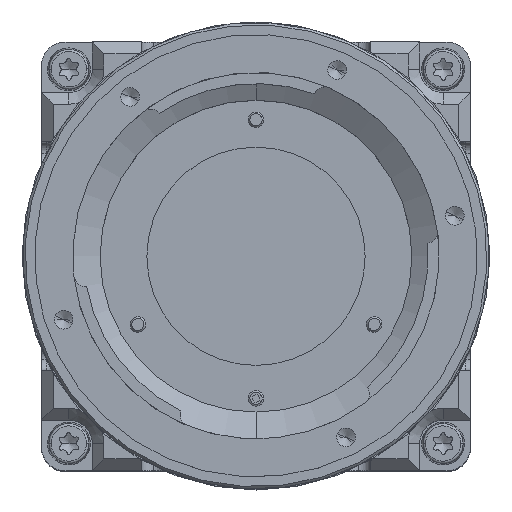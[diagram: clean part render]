
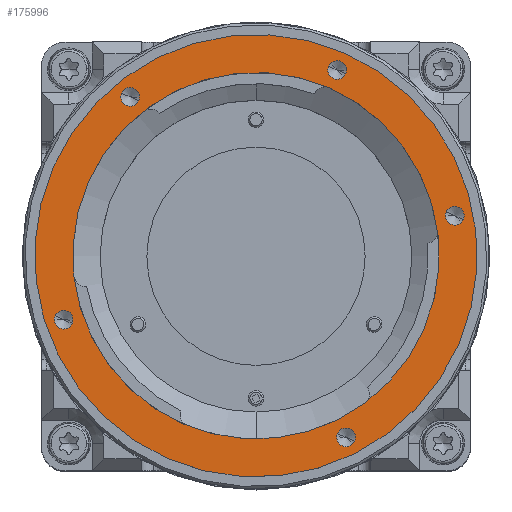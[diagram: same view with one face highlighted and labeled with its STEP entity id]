
A CAD part, top view. The second image highlights one B-rep face of the part: STEP entity #175996.
In plain terms, the highlighted planar face has unit normal (0, 0, 1).
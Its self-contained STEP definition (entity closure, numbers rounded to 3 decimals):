
#152 = FACE_BOUND ( 'NONE', #37196, .T. ) ;
#3795 = CARTESIAN_POINT ( 'NONE',  ( 21.532, -8.854, 51.144 ) ) ;
#3958 = EDGE_CURVE ( 'NONE', #102348, #30397, #73373, .T. ) ;
#6776 = DIRECTION ( 'NONE',  ( 0.916, -0.401, 0. ) ) ;
#7526 = AXIS2_PLACEMENT_3D ( 'NONE', #78070, #109360, #122146 ) ;
#9770 = CIRCLE ( 'NONE', #113067, 1.2 ) ;
#10306 = FACE_BOUND ( 'NONE', #72235, .T. ) ;
#12522 = DIRECTION ( 'NONE',  ( 0., 0., 1. ) ) ;
#14051 = CIRCLE ( 'NONE', #123636, 28.375 ) ;
#14282 = ORIENTED_EDGE ( 'NONE', *, *, #191547, .F. ) ;
#14523 = DIRECTION ( 'NONE',  ( 0.916, -0.401, 0. ) ) ;
#14568 = EDGE_CURVE ( 'NONE', #53792, #178103, #45084, .T. ) ;
#15847 = EDGE_CURVE ( 'NONE', #76205, #126488, #105444, .T. ) ;
#16934 = CARTESIAN_POINT ( 'NONE',  ( 11.515, 23.902, 51.144 ) ) ;
#20274 = EDGE_CURVE ( 'NONE', #143733, #168177, #27678, .T. ) ;
#23288 = CIRCLE ( 'NONE', #38966, 1.2 ) ;
#24600 = AXIS2_PLACEMENT_3D ( 'NONE', #50627, #185981, #52549 ) ;
#25111 = AXIS2_PLACEMENT_3D ( 'NONE', #47899, #166571, #78363 ) ;
#25677 = DIRECTION ( 'NONE',  ( 0., 0., 1. ) ) ;
#25777 = VERTEX_POINT ( 'NONE', #171043 ) ;
#26174 = VERTEX_POINT ( 'NONE', #93482 ) ;
#27678 = CIRCLE ( 'NONE', #24600, 1.2 ) ;
#28166 = CARTESIAN_POINT ( 'NONE',  ( 10.454, -22.251, 51.144 ) ) ;
#30397 = VERTEX_POINT ( 'NONE', #28166 ) ;
#31679 = EDGE_CURVE ( 'NONE', #126488, #76205, #14051, .T. ) ;
#33103 = DIRECTION ( 'NONE',  ( 0., 0., 1. ) ) ;
#33799 = EDGE_LOOP ( 'NONE', ( #129232, #113267 ) ) ;
#35762 = AXIS2_PLACEMENT_3D ( 'NONE', #167421, #33103, #92035 ) ;
#37196 = EDGE_LOOP ( 'NONE', ( #127092, #102847 ) ) ;
#37681 = DIRECTION ( 'NONE',  ( 0., 0., 1. ) ) ;
#38966 = AXIS2_PLACEMENT_3D ( 'NONE', #149888, #122300, #14523 ) ;
#40224 = ORIENTED_EDGE ( 'NONE', *, *, #31679, .T. ) ;
#41022 = CIRCLE ( 'NONE', #175682, 1.2 ) ;
#45084 = CIRCLE ( 'NONE', #35762, 23.5 ) ;
#45294 = FACE_BOUND ( 'NONE', #102252, .T. ) ;
#47899 = CARTESIAN_POINT ( 'NONE',  ( 11.554, -22.732, 51.144 ) ) ;
#49160 = CARTESIAN_POINT ( 'NONE',  ( 9.316, 24.863, 51.144 ) ) ;
#50627 = CARTESIAN_POINT ( 'NONE',  ( -24.673, -7.64, 51.144 ) ) ;
#52549 = DIRECTION ( 'NONE',  ( 0.916, -0.401, 0. ) ) ;
#53792 = VERTEX_POINT ( 'NONE', #117513 ) ;
#54974 = DIRECTION ( 'NONE',  ( 0.916, -0.401, 0. ) ) ;
#57024 = CIRCLE ( 'NONE', #191715, 23.5 ) ;
#59317 = EDGE_CURVE ( 'NONE', #122706, #147548, #23288, .T. ) ;
#60037 = FACE_OUTER_BOUND ( 'NONE', #88582, .T. ) ;
#60231 = VERTEX_POINT ( 'NONE', #146449 ) ;
#61175 = CIRCLE ( 'NONE', #136296, 1.2 ) ;
#62753 = ORIENTED_EDGE ( 'NONE', *, *, #184961, .F. ) ;
#65690 = DIRECTION ( 'NONE',  ( 0., 0., 1. ) ) ;
#67641 = CARTESIAN_POINT ( 'NONE',  ( 10.416, 24.382, 51.144 ) ) ;
#68713 = EDGE_CURVE ( 'NONE', #60231, #26174, #41022, .T. ) ;
#68717 = CARTESIAN_POINT ( 'NONE',  ( -25.773, -7.159, 51.144 ) ) ;
#72235 = EDGE_LOOP ( 'NONE', ( #94345, #128531 ) ) ;
#73373 = CIRCLE ( 'NONE', #7526, 1.2 ) ;
#76205 = VERTEX_POINT ( 'NONE', #120177 ) ;
#77243 = DIRECTION ( 'NONE',  ( 0., 0., 1. ) ) ;
#77378 = EDGE_LOOP ( 'NONE', ( #62753, #164251 ) ) ;
#78070 = CARTESIAN_POINT ( 'NONE',  ( 11.554, -22.732, 51.144 ) ) ;
#78226 = CARTESIAN_POINT ( 'NONE',  ( 0., 0.56, 51.144 ) ) ;
#78363 = DIRECTION ( 'NONE',  ( 0.916, -0.401, 0. ) ) ;
#79227 = DIRECTION ( 'NONE',  ( 0.916, -0.401, 0. ) ) ;
#80527 = ORIENTED_EDGE ( 'NONE', *, *, #3958, .F. ) ;
#81728 = DIRECTION ( 'NONE',  ( 0.916, -0.401, 0. ) ) ;
#84909 = FACE_BOUND ( 'NONE', #141496, .T. ) ;
#86443 = EDGE_CURVE ( 'NONE', #25777, #170129, #91339, .T. ) ;
#88543 = DIRECTION ( 'NONE',  ( 0., 0., -1. ) ) ;
#88582 = EDGE_LOOP ( 'NONE', ( #152017, #40224 ) ) ;
#91339 = CIRCLE ( 'NONE', #125721, 1.2 ) ;
#92035 = DIRECTION ( 'NONE',  ( 0.916, -0.401, 0. ) ) ;
#93482 = CARTESIAN_POINT ( 'NONE',  ( -15.045, 20.46, 51.144 ) ) ;
#94345 = ORIENTED_EDGE ( 'NONE', *, *, #20274, .F. ) ;
#94433 = CARTESIAN_POINT ( 'NONE',  ( -23.574, -8.121, 51.144 ) ) ;
#97864 = CARTESIAN_POINT ( 'NONE',  ( -16.144, 20.94, 51.144 ) ) ;
#100368 = CIRCLE ( 'NONE', #25111, 1.2 ) ;
#102252 = EDGE_LOOP ( 'NONE', ( #14282, #148219 ) ) ;
#102281 = PLANE ( 'NONE',  #122289 ) ;
#102348 = VERTEX_POINT ( 'NONE', #110348 ) ;
#102847 = ORIENTED_EDGE ( 'NONE', *, *, #14568, .F. ) ;
#105444 = CIRCLE ( 'NONE', #171185, 28.375 ) ;
#109360 = DIRECTION ( 'NONE',  ( 0., 0., 1. ) ) ;
#110348 = CARTESIAN_POINT ( 'NONE',  ( 12.653, -23.213, 51.144 ) ) ;
#112066 = EDGE_CURVE ( 'NONE', #30397, #102348, #100368, .T. ) ;
#113067 = AXIS2_PLACEMENT_3D ( 'NONE', #142315, #157097, #54974 ) ;
#113267 = ORIENTED_EDGE ( 'NONE', *, *, #176319, .F. ) ;
#117513 = CARTESIAN_POINT ( 'NONE',  ( -21.532, 9.974, 51.144 ) ) ;
#117880 = DIRECTION ( 'NONE',  ( -0.916, 0.401, 0. ) ) ;
#120177 = CARTESIAN_POINT ( 'NONE',  ( 25.998, -10.807, 51.144 ) ) ;
#122146 = DIRECTION ( 'NONE',  ( 0.916, -0.401, 0. ) ) ;
#122289 = AXIS2_PLACEMENT_3D ( 'NONE', #191530, #88543, #117880 ) ;
#122300 = DIRECTION ( 'NONE',  ( 0., 0., 1. ) ) ;
#122706 = VERTEX_POINT ( 'NONE', #49160 ) ;
#122921 = EDGE_CURVE ( 'NONE', #168177, #143733, #140552, .T. ) ;
#123636 = AXIS2_PLACEMENT_3D ( 'NONE', #171969, #37681, #156409 ) ;
#125721 = AXIS2_PLACEMENT_3D ( 'NONE', #165381, #136861, #149744 ) ;
#126488 = VERTEX_POINT ( 'NONE', #177401 ) ;
#127092 = ORIENTED_EDGE ( 'NONE', *, *, #136297, .F. ) ;
#128531 = ORIENTED_EDGE ( 'NONE', *, *, #122921, .F. ) ;
#129232 = ORIENTED_EDGE ( 'NONE', *, *, #86443, .F. ) ;
#133061 = CARTESIAN_POINT ( 'NONE',  ( -16.144, 20.94, 51.144 ) ) ;
#134144 = AXIS2_PLACEMENT_3D ( 'NONE', #193190, #163764, #180368 ) ;
#136296 = AXIS2_PLACEMENT_3D ( 'NONE', #67641, #65690, #6776 ) ;
#136297 = EDGE_CURVE ( 'NONE', #178103, #53792, #57024, .T. ) ;
#136861 = DIRECTION ( 'NONE',  ( 0., 0., 1. ) ) ;
#140552 = CIRCLE ( 'NONE', #134144, 1.2 ) ;
#141496 = EDGE_LOOP ( 'NONE', ( #80527, #146100 ) ) ;
#142315 = CARTESIAN_POINT ( 'NONE',  ( 25.488, 5.692, 51.144 ) ) ;
#143733 = VERTEX_POINT ( 'NONE', #94433 ) ;
#144370 = CIRCLE ( 'NONE', #169384, 1.2 ) ;
#144992 = DIRECTION ( 'NONE',  ( 0.916, -0.401, 0. ) ) ;
#146100 = ORIENTED_EDGE ( 'NONE', *, *, #112066, .F. ) ;
#146449 = CARTESIAN_POINT ( 'NONE',  ( -17.244, 21.421, 51.144 ) ) ;
#147548 = VERTEX_POINT ( 'NONE', #16934 ) ;
#148219 = ORIENTED_EDGE ( 'NONE', *, *, #68713, .F. ) ;
#149744 = DIRECTION ( 'NONE',  ( 0.916, -0.401, 0. ) ) ;
#149888 = CARTESIAN_POINT ( 'NONE',  ( 10.416, 24.382, 51.144 ) ) ;
#152017 = ORIENTED_EDGE ( 'NONE', *, *, #15847, .T. ) ;
#156409 = DIRECTION ( 'NONE',  ( 0.916, -0.401, 0. ) ) ;
#157097 = DIRECTION ( 'NONE',  ( 0., 0., 1. ) ) ;
#159122 = CARTESIAN_POINT ( 'NONE',  ( 0., 0.56, 51.144 ) ) ;
#159422 = FACE_BOUND ( 'NONE', #33799, .T. ) ;
#163764 = DIRECTION ( 'NONE',  ( 0., 0., 1. ) ) ;
#164251 = ORIENTED_EDGE ( 'NONE', *, *, #59317, .F. ) ;
#165381 = CARTESIAN_POINT ( 'NONE',  ( 25.488, 5.692, 51.144 ) ) ;
#166571 = DIRECTION ( 'NONE',  ( 0., 0., 1. ) ) ;
#167421 = CARTESIAN_POINT ( 'NONE',  ( 0., 0.56, 51.144 ) ) ;
#168177 = VERTEX_POINT ( 'NONE', #68717 ) ;
#168363 = DIRECTION ( 'NONE',  ( 0., 0., 1. ) ) ;
#169384 = AXIS2_PLACEMENT_3D ( 'NONE', #133061, #12522, #144992 ) ;
#170129 = VERTEX_POINT ( 'NONE', #182655 ) ;
#171043 = CARTESIAN_POINT ( 'NONE',  ( 26.588, 5.211, 51.144 ) ) ;
#171185 = AXIS2_PLACEMENT_3D ( 'NONE', #159122, #25677, #81728 ) ;
#171969 = CARTESIAN_POINT ( 'NONE',  ( 0., 0.56, 51.144 ) ) ;
#175682 = AXIS2_PLACEMENT_3D ( 'NONE', #97864, #168363, #79227 ) ;
#175996 = ADVANCED_FACE ( 'NONE', ( #189777, #159422, #84909, #10306, #45294, #152, #60037 ), #102281, .F. ) ;
#176319 = EDGE_CURVE ( 'NONE', #170129, #25777, #9770, .T. ) ;
#177401 = CARTESIAN_POINT ( 'NONE',  ( -25.999, 11.927, 51.144 ) ) ;
#178103 = VERTEX_POINT ( 'NONE', #3795 ) ;
#180368 = DIRECTION ( 'NONE',  ( 0.916, -0.401, 0. ) ) ;
#182655 = CARTESIAN_POINT ( 'NONE',  ( 24.389, 6.172, 51.144 ) ) ;
#184085 = DIRECTION ( 'NONE',  ( 0.916, -0.401, 0. ) ) ;
#184961 = EDGE_CURVE ( 'NONE', #147548, #122706, #61175, .T. ) ;
#185981 = DIRECTION ( 'NONE',  ( 0., 0., 1. ) ) ;
#189777 = FACE_BOUND ( 'NONE', #77378, .T. ) ;
#191530 = CARTESIAN_POINT ( 'NONE',  ( 9.414, 22.092, 51.144 ) ) ;
#191547 = EDGE_CURVE ( 'NONE', #26174, #60231, #144370, .T. ) ;
#191715 = AXIS2_PLACEMENT_3D ( 'NONE', #78226, #77243, #184085 ) ;
#193190 = CARTESIAN_POINT ( 'NONE',  ( -24.673, -7.64, 51.144 ) ) ;
